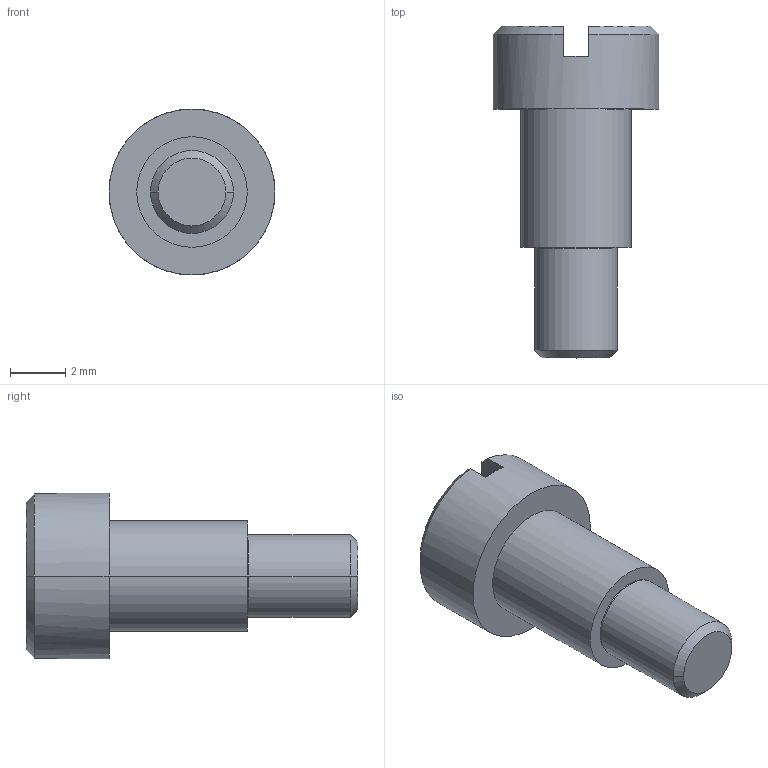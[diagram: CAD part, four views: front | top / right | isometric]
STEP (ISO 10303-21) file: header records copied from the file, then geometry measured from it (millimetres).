
FILE_DESCRIPTION(/* description */ ('VariCAD 2010-1.04 AP-203'),/* implementation_level */ '2;1');
FILE_NAME(/* name */ '0353-97-16',/* time_stamp */ '2010-01-26T21:42:08-07:00',/* author */ (''),/* organization */ (''),/* preprocessor_version */ 'ST-DEVELOPER v12',/* originating_system */ 'VariCAD 2010-1.04; kernel version (20090520)',/* authorisation */ '');
FILE_SCHEMA (('CONFIG_CONTROL_DESIGN'));
Length unit declared in the file: millimetre
Products named in the file (1): Part
Bounding box: 6 x 12 x 6 mm (x, y, z)
Volume: 168.9 mm3; surface area: 285.5 mm2
Topology: 2 solids, 2 shells, 28 faces, 62 edges, 40 vertices
Faces by surface type: cylinder 12, plane 10, cone 6
Entity records: 854 total; most frequent: DIRECTION 154, CARTESIAN_POINT 153, ORIENTED_EDGE 124, AXIS2_PLACEMENT_3D 65, EDGE_CURVE 62, VERTEX_POINT 40, CIRCLE 34, EDGE_LOOP 32
